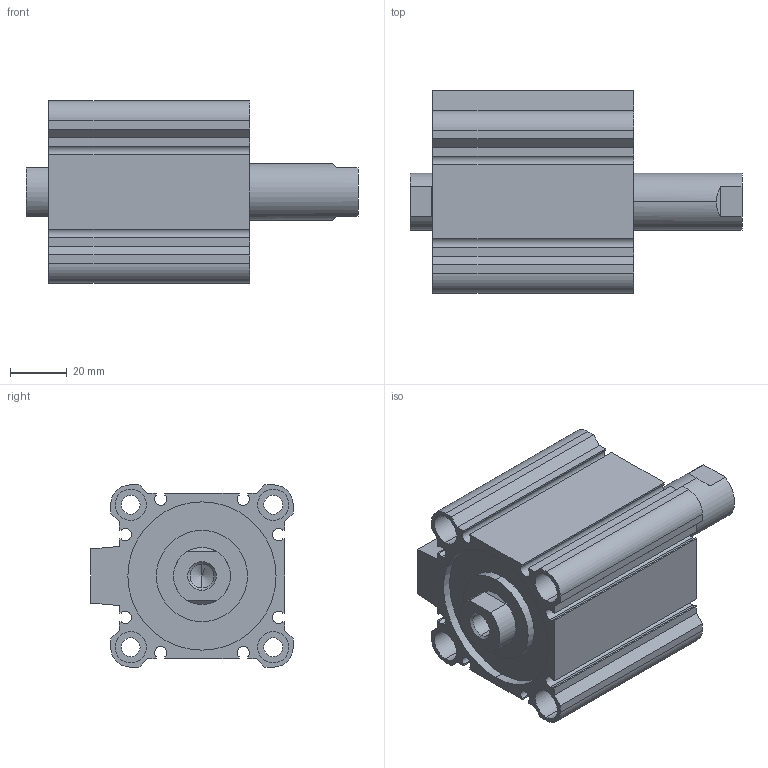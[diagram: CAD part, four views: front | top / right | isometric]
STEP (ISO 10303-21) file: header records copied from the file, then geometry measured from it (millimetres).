
FILE_DESCRIPTION (( 'STEP AP203' ), '1' );
FILE_NAME ('CCMB50-30F-P.STEP', '2020-08-05T11:27:30', ( '' ), ( '' ), 'SwSTEP 2.0', 'SolidWorks 2019', '' );
FILE_SCHEMA (( 'CONFIG_CONTROL_DESIGN' ));
Length unit declared in the file: millimetre
Products named in the file (1): CCMB50-30F-P
Bounding box: 116.5 x 71 x 64 mm (x, y, z)
Volume: 196026.3 mm3; surface area: 65600.2 mm2
Topology: 2 solids, 2 shells, 164 faces, 414 edges, 270 vertices
Faces by surface type: plane 78, cylinder 74, cone 12
Entity records: 5025 total; most frequent: DIRECTION 888, CARTESIAN_POINT 869, ORIENTED_EDGE 820, EDGE_CURVE 410, AXIS2_PLACEMENT_3D 321, VERTEX_POINT 270, VECTOR 246, LINE 246
